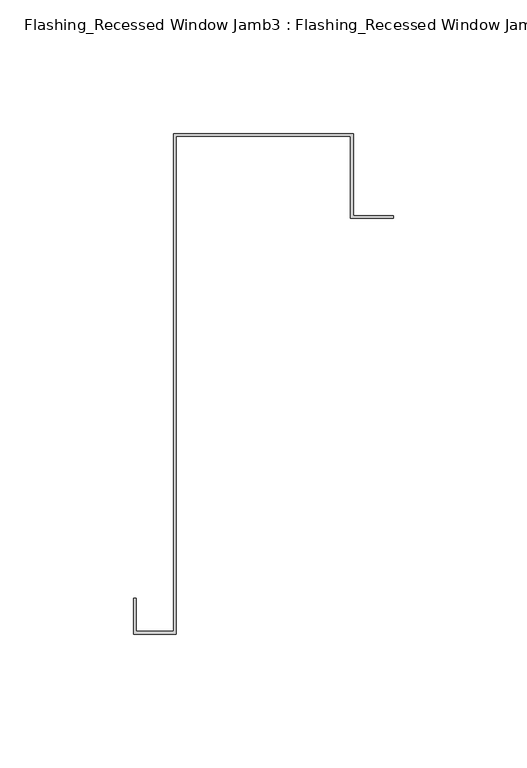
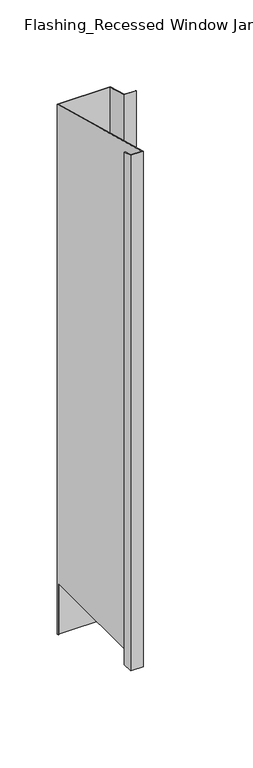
"""IFC4 building model written with IfcOpenShell, lengths in millimetres: proxy geometry, Flashing_Recessed Window Jamb3 : Flashing_Recessed Window Jamb."""

from ifc_helpers import new_model, si_unit, origin, place, context, project, spatial, faceted_brep, source, transform, mapped, element, save


def flashing_recessed_window_jamb3_flashing_recessed_window_jamb_ab1162f4(model_context):
    return source(origin(), model_context, "Body", "Brep", [
        faceted_brep([(17548.2575627, -26570.5553264, -1055.1751138), (17548.2575627, -26539.8073445, -1055.1751138), (17482.8825627, -26539.8073445, -1055.1751138), (17482.8825627, -26540.7391961, -1055.1751138), (17481.8825627, -26540.7391961, -1055.1751138), (17481.8825627, -26538.8073445, -1055.1751138), (17549.2575627, -26538.8073445, -1055.1751138), (17549.2575627, -26569.5553264, -1055.1751138), (17564.2575627, -26569.5553264, -1055.1751138), (17564.2575627, -26570.5553264, -1055.1751138), (17549.2575627, -26538.8073445, -343.2151173), (17549.2575627, -26569.5553264, -334.9762204), (17481.8825627, -26538.8073445, -343.2151173), (17481.8825627, -26540.7391961, -985.662203), (17481.8825627, -26725.1803264, -985.662203), (17481.8825627, -26725.1803264, -293.2766273), (17467.8825627, -26725.1803264, -293.2766273), (17467.8825627, -26725.1803264, -985.662203), (17467.8825627, -26712.854598, -296.5792963), (17467.8825627, -26712.854598, -985.662203), (17466.8825627, -26712.854598, -296.5792963), (17466.8825627, -26712.854598, -985.662203), (17466.8825627, -26726.1803264, -293.0086781), (17466.8825627, -26726.1803264, -985.662203), (17482.8825627, -26726.1803264, -293.0086781), (17482.8825627, -26726.1803264, -985.662203), (17482.8825627, -26539.8073445, -342.9471681), (17482.8825627, -26540.7391961, -985.662203), (17548.2575627, -26539.8073445, -342.9471681), (17548.2575627, -26570.5553264, -334.7082712), (17564.2575627, -26570.5553264, -334.7082712), (17564.2575627, -26569.5553264, -334.9762204)], [[[0, 1, 2, 3, 4, 5, 6, 7, 8, 9]], [[7, 6, 10, 11]], [[6, 5, 12, 10]], [[12, 5, 4, 13, 14, 15]], [[16, 15, 14, 17]], [[18, 16, 17, 19]], [[20, 18, 19, 21]], [[22, 20, 21, 23]], [[24, 22, 23, 25]], [[2, 26, 24, 25, 27, 3]], [[2, 1, 28, 26]], [[1, 0, 29, 28]], [[0, 9, 30, 29]], [[9, 8, 31, 30]], [[8, 7, 11, 31]], [[11, 10, 12, 15, 16, 18, 20, 22, 24, 26, 28, 29, 30, 31]], [[13, 27, 25, 23, 21, 19, 17, 14]], [[27, 13, 4, 3]]]),
    ])


if __name__ == "__main__":
    model = new_model("IFC4")
    model_context = context("Model", 3, world=origin())
    ifc_project = project(units=[si_unit("LENGTHUNIT", "METRE", prefix="MILLI")], contexts=[model_context])
    site = spatial("IfcSite", under=ifc_project)
    building = spatial("IfcBuilding", under=site)
    placement = place(None, origin())
    flashing_recessed_window_jamb3_flashing_recessed_window_jamb_shape = flashing_recessed_window_jamb3_flashing_recessed_window_jamb_ab1162f4(model_context)
    element("IfcBuildingElementProxy", 1, Name="Flashing_Recessed Window Jamb3 : Flashing_Recessed Window Jamb", ObjectType="Flashing_Recessed Window Jamb3 : Flashing_Recessed Window Jamb", at=placement, inside=building, context=model_context, shape_type="MappedRepresentation", body=[
        mapped(flashing_recessed_window_jamb3_flashing_recessed_window_jamb_shape, transform((0.0, 0.0, 0.0), x_axis=(1.0, 0.0, 0.0), y_axis=(0.0, 1.0, 0.0), z_axis=(0.0, 0.0, 1.0))),
    ])
    save(model, "model.ifc")
